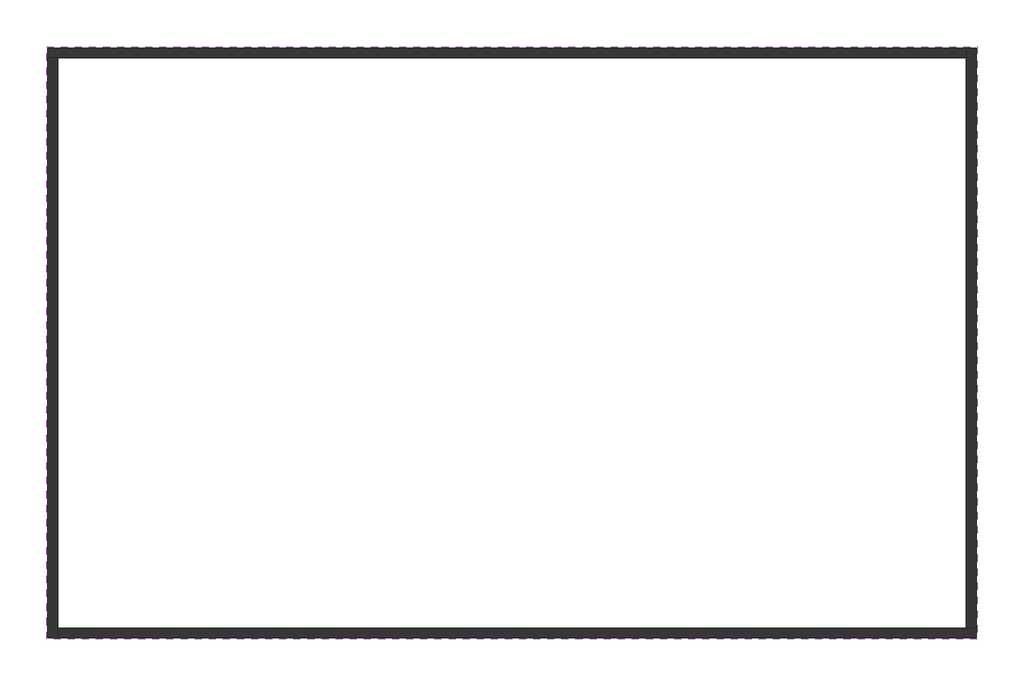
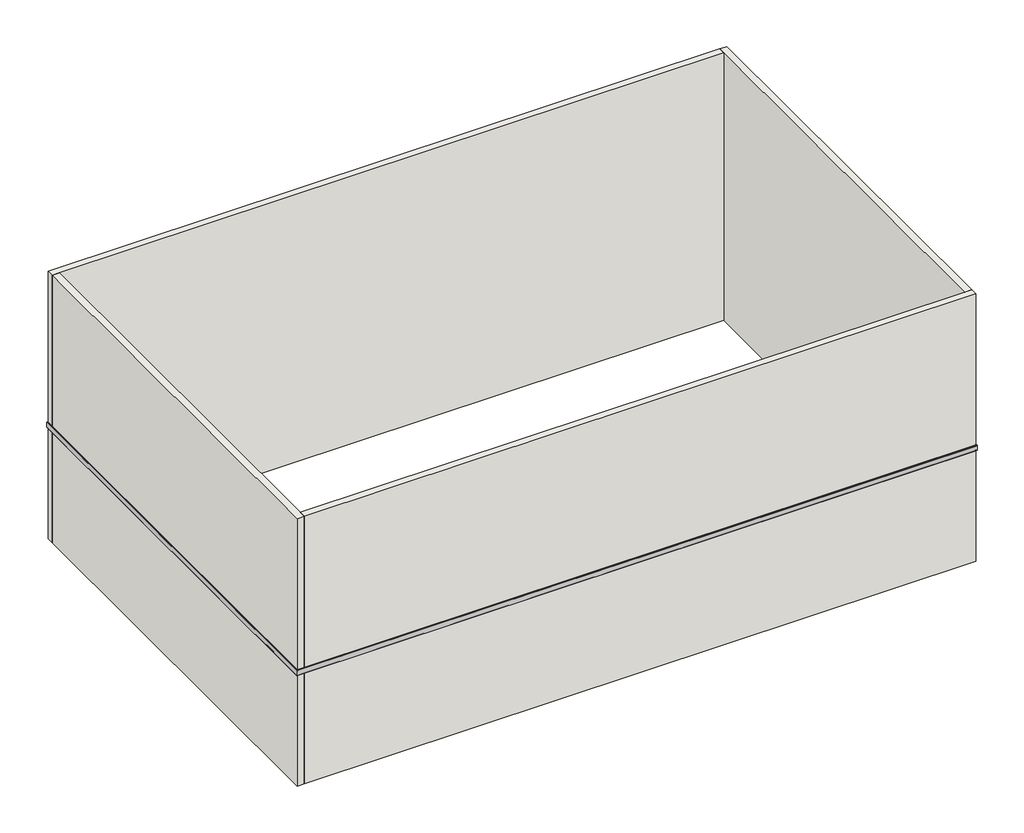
# One storey: 4 walls, 1 proxy.
"""IFC4 building model written with IfcOpenShell, lengths in millimetres."""

from ifc_helpers import new_model, si_unit, frame, origin, place, context, project, spatial, polyline, ellipse_curve, faceted_brep, element, save
from ifc_brep_helpers import plane_surface, cylinder_surface, revolved_surface, advanced_brep

model = new_model("IFC4")

# Units and contexts
model_context = context("Model", 3, world=origin())
ifc_project = project(units=[si_unit("LENGTHUNIT", "METRE", prefix="MILLI")], contexts=[model_context])

# Site, building, storey
site = spatial("IfcSite", under=ifc_project)
building = spatial("IfcBuilding", under=site)
storey = spatial("IfcBuildingStorey", under=building, Name="Nível 1", Elevation=0.0)

# Proxy
placement = place(None, origin())
element("IfcBuildingElementProxy", 1, Name="Cornija", ObjectType="Cornija", at=placement, inside=storey, context=model_context, shape_type="AdvancedBrep", body=[
    advanced_brep(
    [(7656.5603943, -4246.5398507, 3315.0), (7656.5603943, -4246.5398507, 3485.0), (7661.5603943, -4251.5398507, 3485.0), (7666.5603943, -4256.5398507, 3480.0), (7666.5603943, -4256.5398507, 3475.0), (7681.5603943, -4271.5398507, 3475.0), (7686.5603943, -4276.5398507, 3470.0), (7686.5603943, -4276.5398507, 3330.0), (7681.5603943, -4271.5398507, 3325.0), (7666.5603943, -4256.5398507, 3325.0), (7666.5603943, -4256.5398507, 3320.0), (7661.5603943, -4251.5398507, 3315.0), (-11543.4396057, -4246.5398507, 3315.0), (-11548.4396057, -4251.5398507, 3315.0), (-11553.4396057, -4256.5398507, 3320.0), (-11553.4396057, -4256.5398507, 3325.0), (-11568.4396057, -4271.5398507, 3325.0), (-11573.4396057, -4276.5398507, 3330.0), (-11573.4396057, -4276.5398507, 3470.0), (-11568.4396057, -4271.5398507, 3475.0), (-11553.4396057, -4256.5398507, 3475.0), (-11553.4396057, -4256.5398507, 3480.0), (-11548.4396057, -4251.5398507, 3485.0), (-11543.4396057, -4246.5398507, 3485.0)],
    [
        (0, 1),
        (1, 2),
        (2, 3, ellipse_curve(frame((7666.5603943, -4256.5398507, 3485.0), z_axis=(-0.7071067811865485, -0.7071067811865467, 0.0), x_axis=(-0.7071067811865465, 0.7071067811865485, 0.0)), 7.0710678, 5.0)),
        (3, 4),
        (4, 5),
        (5, 6, ellipse_curve(frame((7681.5603943, -4271.5398507, 3470.0), z_axis=(0.7071067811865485, 0.7071067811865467, 0.0), x_axis=(0.7071067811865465, -0.7071067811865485, 0.0)), 7.0710678, 5.0)),
        (6, 7),
        (7, 8, ellipse_curve(frame((7681.5603943, -4271.5398507, 3330.0), z_axis=(0.7071067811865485, 0.7071067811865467, 0.0), x_axis=(0.7071067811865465, -0.7071067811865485, 0.0)), 7.0710678, 5.0)),
        (8, 9),
        (9, 10),
        (10, 11, ellipse_curve(frame((7666.5603943, -4256.5398507, 3315.0), z_axis=(-0.7071067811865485, -0.7071067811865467, 0.0), x_axis=(-0.7071067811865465, 0.7071067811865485, 0.0)), 7.0710678, 5.0)),
        (11, 0),
        (12, 13),
        (13, 14, ellipse_curve(frame((-11553.4396057, -4256.5398507, 3315.0), z_axis=(0.7071067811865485, -0.7071067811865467, 0.0), x_axis=(-0.7071067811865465, -0.7071067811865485, 0.0)), 7.0710678, 5.0)),
        (14, 15),
        (15, 16),
        (16, 17, ellipse_curve(frame((-11568.4396057, -4271.5398507, 3330.0), z_axis=(-0.7071067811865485, 0.7071067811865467, 0.0), x_axis=(0.7071067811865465, 0.7071067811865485, 0.0)), 7.0710678, 5.0)),
        (17, 18),
        (18, 19, ellipse_curve(frame((-11568.4396057, -4271.5398507, 3470.0), z_axis=(-0.7071067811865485, 0.7071067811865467, 0.0), x_axis=(0.7071067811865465, 0.7071067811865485, 0.0)), 7.0710678, 5.0)),
        (19, 20),
        (20, 21),
        (21, 22, ellipse_curve(frame((-11553.4396057, -4256.5398507, 3485.0), z_axis=(0.7071067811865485, -0.7071067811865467, 0.0), x_axis=(-0.7071067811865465, -0.7071067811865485, 0.0)), 7.0710678, 5.0)),
        (22, 23),
        (23, 12),
        (0, 12),
        (23, 1),
        (22, 2),
        (21, 3),
        (20, 4),
        (19, 5),
        (18, 6),
        (17, 7),
        (16, 8),
        (15, 9),
        (14, 10),
        (13, 11),
    ],
    [
        plane_surface(frame((7656.5603943, -4246.5398507, 3704.8), z_axis=(0.7071067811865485, 0.7071067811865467, 0.0), x_axis=(-0.7071067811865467, 0.7071067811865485, 0.0))),
        plane_surface(frame((-11543.4396057, -4246.5398507, 3704.8), z_axis=(-0.7071067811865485, 0.7071067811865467, 0.0), x_axis=(0.7071067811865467, 0.7071067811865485, 0.0))),
        plane_surface(frame((7656.5603943, -4246.5398507, 3315.0), z_axis=(0.0, 1.0, 0.0), x_axis=(-1.0, 0.0, 0.0))),
        plane_surface(frame((7656.5603943, -4246.5398507, 3485.0), z_axis=(0.0, 0.0, 1.0), x_axis=(-1.0, 0.0, 0.0))),
        revolved_surface(polyline([(-11558.439605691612, -4261.5398507, 3485.0), (7671.56039429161, -4261.5398507, 3485.0)]), (7656.5603943, -4256.5398507, 3485.0), (-1.0, 0.0, 0.0)),
        plane_surface(frame((7666.5603943, -4256.5398507, 3480.0), z_axis=(0.0, -1.0, 0.0), x_axis=(-1.0, 0.0, 0.0))),
        plane_surface(frame((7666.5603943, -4256.5398507, 3475.0), z_axis=(0.0, 0.0, 1.0), x_axis=(-1.0, 0.0, 0.0))),
        cylinder_surface(frame((7656.5603943, -4271.5398507, 3470.0), z_axis=(1.0, 0.0, 0.0), x_axis=(0.0, -1.0, 0.0)), 5.0),
        plane_surface(frame((7686.5603943, -4276.5398507, 3470.0), z_axis=(0.0, -1.0, 0.0), x_axis=(-1.0, 0.0, 0.0))),
        cylinder_surface(frame((7656.5603943, -4271.5398507, 3330.0), z_axis=(1.0, 0.0, 0.0), x_axis=(0.0, -1.0, 0.0)), 5.0),
        plane_surface(frame((7681.5603943, -4271.5398507, 3325.0), z_axis=(0.0, 0.0, -1.0), x_axis=(-1.0, 0.0, 0.0))),
        plane_surface(frame((7666.5603943, -4256.5398507, 3325.0), z_axis=(0.0, -1.0, 0.0), x_axis=(-1.0, 0.0, 0.0))),
        revolved_surface(polyline([(-11558.439605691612, -4261.5398507, 3315.0), (7671.56039429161, -4261.5398507, 3315.0)]), (7656.5603943, -4256.5398507, 3315.0), (-1.0, 0.0, 0.0)),
        plane_surface(frame((7661.5603943, -4251.5398507, 3315.0), z_axis=(0.0, 0.0, -1.0), x_axis=(-1.0, 0.0, 0.0))),
    ],
    [
        (0, [[1, 2, 3, 4, 5, 6, 7, 8, 9, 10, 11, 12]]),
        (1, [[13, 14, 15, 16, 17, 18, 19, 20, 21, 22, 23, 24]]),
        (2, [[-1, 25, -24, 26]]),
        (3, [[-2, -26, -23, 27]]),
        (4, [[-3, -27, -22, 28]]),
        (5, [[-4, -28, -21, 29]]),
        (6, [[-5, -29, -20, 30]]),
        (7, [[-6, -30, -19, 31]]),
        (8, [[-7, -31, -18, 32]]),
        (9, [[-8, -32, -17, 33]]),
        (10, [[-9, -33, -16, 34]]),
        (11, [[-10, -34, -15, 35]]),
        (12, [[-11, -35, -14, 36]]),
        (13, [[-12, -36, -13, -25]]),
    ],
),
    advanced_brep(
    [(7656.5603943, 7953.4601493, 3315.0), (7656.5603943, 7953.4601493, 3485.0), (7661.5603943, 7958.4601493, 3485.0), (7666.5603943, 7963.4601493, 3480.0), (7666.5603943, 7963.4601493, 3475.0), (7681.5603943, 7978.4601493, 3475.0), (7686.5603943, 7983.4601493, 3470.0), (7686.5603943, 7983.4601493, 3330.0), (7681.5603943, 7978.4601493, 3325.0), (7666.5603943, 7963.4601493, 3325.0), (7666.5603943, 7963.4601493, 3320.0), (7661.5603943, 7958.4601493, 3315.0), (7656.5603943, -4246.5398507, 3315.0), (7661.5603943, -4251.5398507, 3315.0), (7666.5603943, -4256.5398507, 3320.0), (7666.5603943, -4256.5398507, 3325.0), (7681.5603943, -4271.5398507, 3325.0), (7686.5603943, -4276.5398507, 3330.0), (7686.5603943, -4276.5398507, 3470.0), (7681.5603943, -4271.5398507, 3475.0), (7666.5603943, -4256.5398507, 3475.0), (7666.5603943, -4256.5398507, 3480.0), (7661.5603943, -4251.5398507, 3485.0), (7656.5603943, -4246.5398507, 3485.0)],
    [
        (0, 1),
        (1, 2),
        (2, 3, ellipse_curve(frame((7666.5603943, 7963.4601493, 3485.0), z_axis=(0.7071067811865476, -0.7071067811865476, 0.0), x_axis=(-0.7071067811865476, -0.7071067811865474, 0.0)), 7.0710678, 5.0)),
        (3, 4),
        (4, 5),
        (5, 6, ellipse_curve(frame((7681.5603943, 7978.4601493, 3470.0), z_axis=(-0.7071067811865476, 0.7071067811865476, 0.0), x_axis=(0.7071067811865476, 0.7071067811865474, 0.0)), 7.0710678, 5.0)),
        (6, 7),
        (7, 8, ellipse_curve(frame((7681.5603943, 7978.4601493, 3330.0), z_axis=(-0.7071067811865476, 0.7071067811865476, 0.0), x_axis=(0.7071067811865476, 0.7071067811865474, 0.0)), 7.0710678, 5.0)),
        (8, 9),
        (9, 10),
        (10, 11, ellipse_curve(frame((7666.5603943, 7963.4601493, 3315.0), z_axis=(0.7071067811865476, -0.7071067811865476, 0.0), x_axis=(-0.7071067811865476, -0.7071067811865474, 0.0)), 7.0710678, 5.0)),
        (11, 0),
        (12, 13),
        (13, 14, ellipse_curve(frame((7666.5603943, -4256.5398507, 3315.0), z_axis=(0.7071067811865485, 0.7071067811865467, 0.0), x_axis=(0.7071067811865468, -0.7071067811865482, 0.0)), 7.0710678, 5.0)),
        (14, 15),
        (15, 16),
        (16, 17, ellipse_curve(frame((7681.5603943, -4271.5398507, 3330.0), z_axis=(-0.7071067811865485, -0.7071067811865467, 0.0), x_axis=(-0.7071067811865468, 0.7071067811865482, 0.0)), 7.0710678, 5.0)),
        (17, 18),
        (18, 19, ellipse_curve(frame((7681.5603943, -4271.5398507, 3470.0), z_axis=(-0.7071067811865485, -0.7071067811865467, 0.0), x_axis=(-0.7071067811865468, 0.7071067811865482, 0.0)), 7.0710678, 5.0)),
        (19, 20),
        (20, 21),
        (21, 22, ellipse_curve(frame((7666.5603943, -4256.5398507, 3485.0), z_axis=(0.7071067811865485, 0.7071067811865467, 0.0), x_axis=(0.7071067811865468, -0.7071067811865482, 0.0)), 7.0710678, 5.0)),
        (22, 23),
        (23, 12),
        (0, 12),
        (23, 1),
        (22, 2),
        (21, 3),
        (20, 4),
        (19, 5),
        (18, 6),
        (17, 7),
        (16, 8),
        (15, 9),
        (14, 10),
        (13, 11),
    ],
    [
        plane_surface(frame((7656.5603943, 7953.4601493, 3704.8), z_axis=(-0.7071067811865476, 0.7071067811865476, 0.0), x_axis=(-0.7071067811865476, -0.7071067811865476, 0.0))),
        plane_surface(frame((7656.5603943, -4246.5398507, 3704.8), z_axis=(-0.7071067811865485, -0.7071067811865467, 0.0), x_axis=(-0.7071067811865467, 0.7071067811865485, 0.0))),
        plane_surface(frame((7656.5603943, 7953.4601493, 3315.0), z_axis=(-1.0, 0.0, 0.0), x_axis=(0.0, -1.0, 0.0))),
        plane_surface(frame((7656.5603943, 7953.4601493, 3485.0), z_axis=(0.0, 0.0, 1.0), x_axis=(0.0, -1.0, 0.0))),
        revolved_surface(polyline([(7671.5603943, -4261.539850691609, 3485.0), (7671.5603943, 7968.46014929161, 3485.0)]), (7666.5603943, 7953.4601493, 3485.0), (0.0, -1.0, 0.0)),
        plane_surface(frame((7666.5603943, 7963.4601493, 3480.0), z_axis=(1.0, 0.0, 0.0), x_axis=(0.0, -1.0, 0.0))),
        plane_surface(frame((7666.5603943, 7963.4601493, 3475.0), z_axis=(0.0, 0.0, 1.0), x_axis=(0.0, -1.0, 0.0))),
        cylinder_surface(frame((7681.5603943, 7953.4601493, 3470.0), z_axis=(0.0, 1.0, 0.0), x_axis=(1.0, 0.0, 0.0)), 5.0),
        plane_surface(frame((7686.5603943, 7983.4601493, 3470.0), z_axis=(1.0, 0.0, 0.0), x_axis=(0.0, -1.0, 0.0))),
        cylinder_surface(frame((7681.5603943, 7953.4601493, 3330.0), z_axis=(0.0, 1.0, 0.0), x_axis=(1.0, 0.0, 0.0)), 5.0),
        plane_surface(frame((7681.5603943, 7978.4601493, 3325.0), z_axis=(0.0, 0.0, -1.0), x_axis=(0.0, -1.0, 0.0))),
        plane_surface(frame((7666.5603943, 7963.4601493, 3325.0), z_axis=(1.0, 0.0, 0.0), x_axis=(0.0, -1.0, 0.0))),
        revolved_surface(polyline([(7671.5603943, -4261.539850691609, 3315.0), (7671.5603943, 7968.46014929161, 3315.0)]), (7666.5603943, 7953.4601493, 3315.0), (0.0, -1.0, 0.0)),
        plane_surface(frame((7661.5603943, 7958.4601493, 3315.0), z_axis=(0.0, 0.0, -1.0), x_axis=(0.0, -1.0, 0.0))),
    ],
    [
        (0, [[1, 2, 3, 4, 5, 6, 7, 8, 9, 10, 11, 12]]),
        (1, [[13, 14, 15, 16, 17, 18, 19, 20, 21, 22, 23, 24]]),
        (2, [[-1, 25, -24, 26]]),
        (3, [[-2, -26, -23, 27]]),
        (4, [[-3, -27, -22, 28]]),
        (5, [[-4, -28, -21, 29]]),
        (6, [[-5, -29, -20, 30]]),
        (7, [[-6, -30, -19, 31]]),
        (8, [[-7, -31, -18, 32]]),
        (9, [[-8, -32, -17, 33]]),
        (10, [[-9, -33, -16, 34]]),
        (11, [[-10, -34, -15, 35]]),
        (12, [[-11, -35, -14, 36]]),
        (13, [[-12, -36, -13, -25]]),
    ],
),
    advanced_brep(
    [(-11543.4396057, 7953.4601493, 3315.0), (-11543.4396057, 7953.4601493, 3485.0), (-11548.4396057, 7958.4601493, 3485.0), (-11553.4396057, 7963.4601493, 3480.0), (-11553.4396057, 7963.4601493, 3475.0), (-11568.4396057, 7978.4601493, 3475.0), (-11573.4396057, 7983.4601493, 3470.0), (-11573.4396057, 7983.4601493, 3330.0), (-11568.4396057, 7978.4601493, 3325.0), (-11553.4396057, 7963.4601493, 3325.0), (-11553.4396057, 7963.4601493, 3320.0), (-11548.4396057, 7958.4601493, 3315.0), (7656.5603943, 7953.4601493, 3315.0), (7661.5603943, 7958.4601493, 3315.0), (7666.5603943, 7963.4601493, 3320.0), (7666.5603943, 7963.4601493, 3325.0), (7681.5603943, 7978.4601493, 3325.0), (7686.5603943, 7983.4601493, 3330.0), (7686.5603943, 7983.4601493, 3470.0), (7681.5603943, 7978.4601493, 3475.0), (7666.5603943, 7963.4601493, 3475.0), (7666.5603943, 7963.4601493, 3480.0), (7661.5603943, 7958.4601493, 3485.0), (7656.5603943, 7953.4601493, 3485.0)],
    [
        (0, 1),
        (1, 2),
        (2, 3, ellipse_curve(frame((-11553.4396057, 7963.4601493, 3485.0), z_axis=(0.7071067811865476, 0.7071067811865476, 0.0), x_axis=(0.7071067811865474, -0.7071067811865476, 0.0)), 7.0710678, 5.0)),
        (3, 4),
        (4, 5),
        (5, 6, ellipse_curve(frame((-11568.4396057, 7978.4601493, 3470.0), z_axis=(-0.7071067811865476, -0.7071067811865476, 0.0), x_axis=(-0.7071067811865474, 0.7071067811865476, 0.0)), 7.0710678, 5.0)),
        (6, 7),
        (7, 8, ellipse_curve(frame((-11568.4396057, 7978.4601493, 3330.0), z_axis=(-0.7071067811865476, -0.7071067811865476, 0.0), x_axis=(-0.7071067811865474, 0.7071067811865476, 0.0)), 7.0710678, 5.0)),
        (8, 9),
        (9, 10),
        (10, 11, ellipse_curve(frame((-11553.4396057, 7963.4601493, 3315.0), z_axis=(0.7071067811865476, 0.7071067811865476, 0.0), x_axis=(0.7071067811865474, -0.7071067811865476, 0.0)), 7.0710678, 5.0)),
        (11, 0),
        (12, 13),
        (13, 14, ellipse_curve(frame((7666.5603943, 7963.4601493, 3315.0), z_axis=(-0.7071067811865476, 0.7071067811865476, 0.0), x_axis=(0.7071067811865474, 0.7071067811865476, 0.0)), 7.0710678, 5.0)),
        (14, 15),
        (15, 16),
        (16, 17, ellipse_curve(frame((7681.5603943, 7978.4601493, 3330.0), z_axis=(0.7071067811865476, -0.7071067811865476, 0.0), x_axis=(-0.7071067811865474, -0.7071067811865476, 0.0)), 7.0710678, 5.0)),
        (17, 18),
        (18, 19, ellipse_curve(frame((7681.5603943, 7978.4601493, 3470.0), z_axis=(0.7071067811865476, -0.7071067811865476, 0.0), x_axis=(-0.7071067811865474, -0.7071067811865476, 0.0)), 7.0710678, 5.0)),
        (19, 20),
        (20, 21),
        (21, 22, ellipse_curve(frame((7666.5603943, 7963.4601493, 3485.0), z_axis=(-0.7071067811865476, 0.7071067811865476, 0.0), x_axis=(0.7071067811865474, 0.7071067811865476, 0.0)), 7.0710678, 5.0)),
        (22, 23),
        (23, 12),
        (0, 12),
        (23, 1),
        (22, 2),
        (21, 3),
        (20, 4),
        (19, 5),
        (18, 6),
        (17, 7),
        (16, 8),
        (15, 9),
        (14, 10),
        (13, 11),
    ],
    [
        plane_surface(frame((-11543.4396057, 7953.4601493, 3704.8), z_axis=(-0.7071067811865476, -0.7071067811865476, 0.0), x_axis=(0.7071067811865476, -0.7071067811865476, 0.0))),
        plane_surface(frame((7656.5603943, 7953.4601493, 3704.8), z_axis=(0.7071067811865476, -0.7071067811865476, 0.0), x_axis=(-0.7071067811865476, -0.7071067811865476, 0.0))),
        plane_surface(frame((-11543.4396057, 7953.4601493, 3315.0), z_axis=(0.0, -1.0, 0.0), x_axis=(1.0, 0.0, 0.0))),
        plane_surface(frame((-11543.4396057, 7953.4601493, 3485.0), z_axis=(0.0, 0.0, 1.0), x_axis=(1.0, 0.0, 0.0))),
        revolved_surface(polyline([(7671.560394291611, 7968.4601493, 3485.0), (-11558.439605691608, 7968.4601493, 3485.0)]), (-11543.4396057, 7963.4601493, 3485.0), (1.0, 0.0, 0.0)),
        plane_surface(frame((-11553.4396057, 7963.4601493, 3480.0), z_axis=(0.0, 1.0, 0.0), x_axis=(1.0, 0.0, 0.0))),
        plane_surface(frame((-11553.4396057, 7963.4601493, 3475.0), z_axis=(0.0, 0.0, 1.0), x_axis=(1.0, 0.0, 0.0))),
        cylinder_surface(frame((-11543.4396057, 7978.4601493, 3470.0), z_axis=(-1.0, 0.0, 0.0), x_axis=(0.0, 1.0, 0.0)), 5.0),
        plane_surface(frame((-11573.4396057, 7983.4601493, 3470.0), z_axis=(0.0, 1.0, 0.0), x_axis=(1.0, 0.0, 0.0))),
        cylinder_surface(frame((-11543.4396057, 7978.4601493, 3330.0), z_axis=(-1.0, 0.0, 0.0), x_axis=(0.0, 1.0, 0.0)), 5.0),
        plane_surface(frame((-11568.4396057, 7978.4601493, 3325.0), z_axis=(0.0, 0.0, -1.0), x_axis=(1.0, 0.0, 0.0))),
        plane_surface(frame((-11553.4396057, 7963.4601493, 3325.0), z_axis=(0.0, 1.0, 0.0), x_axis=(1.0, 0.0, 0.0))),
        revolved_surface(polyline([(7671.560394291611, 7968.4601493, 3315.0), (-11558.439605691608, 7968.4601493, 3315.0)]), (-11543.4396057, 7963.4601493, 3315.0), (1.0, 0.0, 0.0)),
        plane_surface(frame((-11548.4396057, 7958.4601493, 3315.0), z_axis=(0.0, 0.0, -1.0), x_axis=(1.0, 0.0, 0.0))),
    ],
    [
        (0, [[1, 2, 3, 4, 5, 6, 7, 8, 9, 10, 11, 12]]),
        (1, [[13, 14, 15, 16, 17, 18, 19, 20, 21, 22, 23, 24]]),
        (2, [[-1, 25, -24, 26]]),
        (3, [[-2, -26, -23, 27]]),
        (4, [[-3, -27, -22, 28]]),
        (5, [[-4, -28, -21, 29]]),
        (6, [[-5, -29, -20, 30]]),
        (7, [[-6, -30, -19, 31]]),
        (8, [[-7, -31, -18, 32]]),
        (9, [[-8, -32, -17, 33]]),
        (10, [[-9, -33, -16, 34]]),
        (11, [[-10, -34, -15, 35]]),
        (12, [[-11, -35, -14, 36]]),
        (13, [[-12, -36, -13, -25]]),
    ],
),
    advanced_brep(
    [(-11543.4396057, -4246.5398507, 3315.0), (-11543.4396057, -4246.5398507, 3485.0), (-11548.4396057, -4251.5398507, 3485.0), (-11553.4396057, -4256.5398507, 3480.0), (-11553.4396057, -4256.5398507, 3475.0), (-11568.4396057, -4271.5398507, 3475.0), (-11573.4396057, -4276.5398507, 3470.0), (-11573.4396057, -4276.5398507, 3330.0), (-11568.4396057, -4271.5398507, 3325.0), (-11553.4396057, -4256.5398507, 3325.0), (-11553.4396057, -4256.5398507, 3320.0), (-11548.4396057, -4251.5398507, 3315.0), (-11543.4396057, 7953.4601493, 3315.0), (-11548.4396057, 7958.4601493, 3315.0), (-11553.4396057, 7963.4601493, 3320.0), (-11553.4396057, 7963.4601493, 3325.0), (-11568.4396057, 7978.4601493, 3325.0), (-11573.4396057, 7983.4601493, 3330.0), (-11573.4396057, 7983.4601493, 3470.0), (-11568.4396057, 7978.4601493, 3475.0), (-11553.4396057, 7963.4601493, 3475.0), (-11553.4396057, 7963.4601493, 3480.0), (-11548.4396057, 7958.4601493, 3485.0), (-11543.4396057, 7953.4601493, 3485.0)],
    [
        (0, 1),
        (1, 2),
        (2, 3, ellipse_curve(frame((-11553.4396057, -4256.5398507, 3485.0), z_axis=(-0.7071067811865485, 0.7071067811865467, 0.0), x_axis=(0.7071067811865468, 0.7071067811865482, 0.0)), 7.0710678, 5.0)),
        (3, 4),
        (4, 5),
        (5, 6, ellipse_curve(frame((-11568.4396057, -4271.5398507, 3470.0), z_axis=(0.7071067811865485, -0.7071067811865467, 0.0), x_axis=(-0.7071067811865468, -0.7071067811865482, 0.0)), 7.0710678, 5.0)),
        (6, 7),
        (7, 8, ellipse_curve(frame((-11568.4396057, -4271.5398507, 3330.0), z_axis=(0.7071067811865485, -0.7071067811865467, 0.0), x_axis=(-0.7071067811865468, -0.7071067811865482, 0.0)), 7.0710678, 5.0)),
        (8, 9),
        (9, 10),
        (10, 11, ellipse_curve(frame((-11553.4396057, -4256.5398507, 3315.0), z_axis=(-0.7071067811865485, 0.7071067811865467, 0.0), x_axis=(0.7071067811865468, 0.7071067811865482, 0.0)), 7.0710678, 5.0)),
        (11, 0),
        (12, 13),
        (13, 14, ellipse_curve(frame((-11553.4396057, 7963.4601493, 3315.0), z_axis=(-0.7071067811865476, -0.7071067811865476, 0.0), x_axis=(-0.7071067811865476, 0.7071067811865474, 0.0)), 7.0710678, 5.0)),
        (14, 15),
        (15, 16),
        (16, 17, ellipse_curve(frame((-11568.4396057, 7978.4601493, 3330.0), z_axis=(0.7071067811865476, 0.7071067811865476, 0.0), x_axis=(0.7071067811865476, -0.7071067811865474, 0.0)), 7.0710678, 5.0)),
        (17, 18),
        (18, 19, ellipse_curve(frame((-11568.4396057, 7978.4601493, 3470.0), z_axis=(0.7071067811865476, 0.7071067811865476, 0.0), x_axis=(0.7071067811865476, -0.7071067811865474, 0.0)), 7.0710678, 5.0)),
        (19, 20),
        (20, 21),
        (21, 22, ellipse_curve(frame((-11553.4396057, 7963.4601493, 3485.0), z_axis=(-0.7071067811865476, -0.7071067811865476, 0.0), x_axis=(-0.7071067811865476, 0.7071067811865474, 0.0)), 7.0710678, 5.0)),
        (22, 23),
        (23, 12),
        (0, 12),
        (23, 1),
        (22, 2),
        (21, 3),
        (20, 4),
        (19, 5),
        (18, 6),
        (17, 7),
        (16, 8),
        (15, 9),
        (14, 10),
        (13, 11),
    ],
    [
        plane_surface(frame((-11543.4396057, -4246.5398507, 3704.8), z_axis=(0.7071067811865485, -0.7071067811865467, 0.0), x_axis=(0.7071067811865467, 0.7071067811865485, 0.0))),
        plane_surface(frame((-11543.4396057, 7953.4601493, 3704.8), z_axis=(0.7071067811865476, 0.7071067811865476, 0.0), x_axis=(0.7071067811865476, -0.7071067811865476, 0.0))),
        plane_surface(frame((-11543.4396057, -4246.5398507, 3315.0), z_axis=(1.0, 0.0, 0.0), x_axis=(0.0, 1.0, 0.0))),
        plane_surface(frame((-11543.4396057, -4246.5398507, 3485.0), z_axis=(0.0, 0.0, 1.0), x_axis=(0.0, 1.0, 0.0))),
        revolved_surface(polyline([(-11558.4396057, 7968.460149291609, 3485.0), (-11558.4396057, -4261.53985069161, 3485.0)]), (-11553.4396057, -4246.5398507, 3485.0), (0.0, 1.0, 0.0)),
        plane_surface(frame((-11553.4396057, -4256.5398507, 3480.0), z_axis=(-1.0, 0.0, 0.0), x_axis=(0.0, 1.0, 0.0))),
        plane_surface(frame((-11553.4396057, -4256.5398507, 3475.0), z_axis=(0.0, 0.0, 1.0), x_axis=(0.0, 1.0, 0.0))),
        cylinder_surface(frame((-11568.4396057, -4246.5398507, 3470.0), z_axis=(0.0, -1.0, 0.0), x_axis=(-1.0, 0.0, 0.0)), 5.0),
        plane_surface(frame((-11573.4396057, -4276.5398507, 3470.0), z_axis=(-1.0, 0.0, 0.0), x_axis=(0.0, 1.0, 0.0))),
        cylinder_surface(frame((-11568.4396057, -4246.5398507, 3330.0), z_axis=(0.0, -1.0, 0.0), x_axis=(-1.0, 0.0, 0.0)), 5.0),
        plane_surface(frame((-11568.4396057, -4271.5398507, 3325.0), z_axis=(0.0, 0.0, -1.0), x_axis=(0.0, 1.0, 0.0))),
        plane_surface(frame((-11553.4396057, -4256.5398507, 3325.0), z_axis=(-1.0, 0.0, 0.0), x_axis=(0.0, 1.0, 0.0))),
        revolved_surface(polyline([(-11558.4396057, 7968.460149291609, 3315.0), (-11558.4396057, -4261.53985069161, 3315.0)]), (-11553.4396057, -4246.5398507, 3315.0), (0.0, 1.0, 0.0)),
        plane_surface(frame((-11548.4396057, -4251.5398507, 3315.0), z_axis=(0.0, 0.0, -1.0), x_axis=(0.0, 1.0, 0.0))),
    ],
    [
        (0, [[1, 2, 3, 4, 5, 6, 7, 8, 9, 10, 11, 12]]),
        (1, [[13, 14, 15, 16, 17, 18, 19, 20, 21, 22, 23, 24]]),
        (2, [[-1, 25, -24, 26]]),
        (3, [[-2, -26, -23, 27]]),
        (4, [[-3, -27, -22, 28]]),
        (5, [[-4, -28, -21, 29]]),
        (6, [[-5, -29, -20, 30]]),
        (7, [[-6, -30, -19, 31]]),
        (8, [[-7, -31, -18, 32]]),
        (9, [[-8, -32, -17, 33]]),
        (10, [[-9, -33, -16, 34]]),
        (11, [[-10, -34, -15, 35]]),
        (12, [[-11, -35, -14, 36]]),
        (13, [[-12, -36, -13, -25]]),
    ],
),
])

# Walls
element("IfcWall", 2, ObjectType="Genérico - 200 mm", at=placement, inside=storey, context=model_context, shape_type="Brep", body=[
    faceted_brep([(-11543.4396057, 7753.4601493, 0.0), (-11343.4396057, 7753.4601493, 0.0), (7456.5603943, 7753.4601493, 0.0), (7456.5603943, 7753.4601493, 8000.0), (-11343.4396057, 7753.4601493, 8000.0), (-11543.4396057, 7753.4601493, 8000.0), (-11543.4396057, 7753.4601493, 3485.0), (-11543.4396057, 7753.4601493, 3315.0), (7456.5603943, 7953.4601493, 0.0), (-11543.4396057, 7953.4601493, 0.0), (-11543.4396057, 7953.4601493, 3315.0), (-11543.4396057, 7953.4601493, 3485.0), (-11543.4396057, 7953.4601493, 8000.0), (7456.5603943, 7953.4601493, 8000.0), (7456.5603943, 7953.4601493, 3485.0), (7456.5603943, 7953.4601493, 3315.0)], [[[0, 1, 2, 3, 4, 5, 6, 7]], [[8, 9, 10, 11, 12, 13, 14, 15]], [[2, 1, 0, 9, 8]], [[5, 4, 3, 13, 12]], [[5, 12, 11, 10, 9, 0, 7, 6]], [[3, 2, 8, 15, 14, 13]]]),
])
element("IfcWall", 3, ObjectType="Genérico - 200 mm", at=placement, inside=storey, context=model_context, shape_type="Brep", body=[
    faceted_brep([(-11343.4396057, -4246.5398507, 0.0), (-11343.4396057, -4046.5398507, 0.0), (-11343.4396057, 7753.4601493, 0.0), (-11343.4396057, 7753.4601493, 8000.0), (-11343.4396057, -4046.5398507, 8000.0), (-11343.4396057, -4246.5398507, 8000.0), (-11343.4396057, -4246.5398507, 3485.0), (-11343.4396057, -4246.5398507, 3315.0), (-11543.4396057, 7753.4601493, 0.0), (-11543.4396057, -4246.5398507, 0.0), (-11543.4396057, -4246.5398507, 3315.0), (-11543.4396057, -4246.5398507, 3485.0), (-11543.4396057, -4246.5398507, 8000.0), (-11543.4396057, 7753.4601493, 8000.0), (-11543.4396057, 7753.4601493, 3485.0), (-11543.4396057, 7753.4601493, 3315.0)], [[[0, 1, 2, 3, 4, 5, 6, 7]], [[8, 9, 10, 11, 12, 13, 14, 15]], [[2, 1, 0, 9, 8]], [[5, 4, 3, 13, 12]], [[5, 12, 11, 10, 9, 0, 7, 6]], [[3, 2, 8, 15, 14, 13]]]),
])
element("IfcWall", 4, ObjectType="Genérico - 200 mm", at=placement, inside=storey, context=model_context, shape_type="Brep", body=[
    faceted_brep([(7656.5603943, -4046.5398507, 0.0), (7456.5603943, -4046.5398507, 0.0), (-11343.4396057, -4046.5398507, 0.0), (-11343.4396057, -4046.5398507, 8000.0), (7456.5603943, -4046.5398507, 8000.0), (7656.5603943, -4046.5398507, 8000.0), (7656.5603943, -4046.5398507, 3485.0), (7656.5603943, -4046.5398507, 3315.0), (-11343.4396057, -4246.5398507, 0.0), (7656.5603943, -4246.5398507, 0.0), (7656.5603943, -4246.5398507, 3315.0), (7656.5603943, -4246.5398507, 3485.0), (7656.5603943, -4246.5398507, 8000.0), (-11343.4396057, -4246.5398507, 8000.0), (-11343.4396057, -4246.5398507, 3485.0), (-11343.4396057, -4246.5398507, 3315.0)], [[[0, 1, 2, 3, 4, 5, 6, 7]], [[8, 9, 10, 11, 12, 13, 14, 15]], [[2, 1, 0, 9, 8]], [[5, 4, 3, 13, 12]], [[5, 12, 11, 10, 9, 0, 7, 6]], [[3, 2, 8, 15, 14, 13]]]),
])
element("IfcWall", 5, ObjectType="Genérico - 200 mm", at=placement, inside=storey, context=model_context, shape_type="Brep", body=[
    faceted_brep([(7456.5603943, 7953.4601493, 0.0), (7456.5603943, 7753.4601493, 0.0), (7456.5603943, -4046.5398507, 0.0), (7456.5603943, -4046.5398507, 8000.0), (7456.5603943, 7753.4601493, 8000.0), (7456.5603943, 7953.4601493, 8000.0), (7456.5603943, 7953.4601493, 3485.0), (7456.5603943, 7953.4601493, 3315.0), (7656.5603943, -4046.5398507, 0.0), (7656.5603943, 7953.4601493, 0.0), (7656.5603943, 7953.4601493, 3315.0), (7656.5603943, 7953.4601493, 3485.0), (7656.5603943, 7953.4601493, 8000.0), (7656.5603943, -4046.5398507, 8000.0), (7656.5603943, -4046.5398507, 3485.0), (7656.5603943, -4046.5398507, 3315.0)], [[[0, 1, 2, 3, 4, 5, 6, 7]], [[8, 9, 10, 11, 12, 13, 14, 15]], [[2, 1, 0, 9, 8]], [[5, 4, 3, 13, 12]], [[5, 12, 11, 10, 9, 0, 7, 6]], [[3, 2, 8, 15, 14, 13]]]),
])

save(model, "model.ifc")
